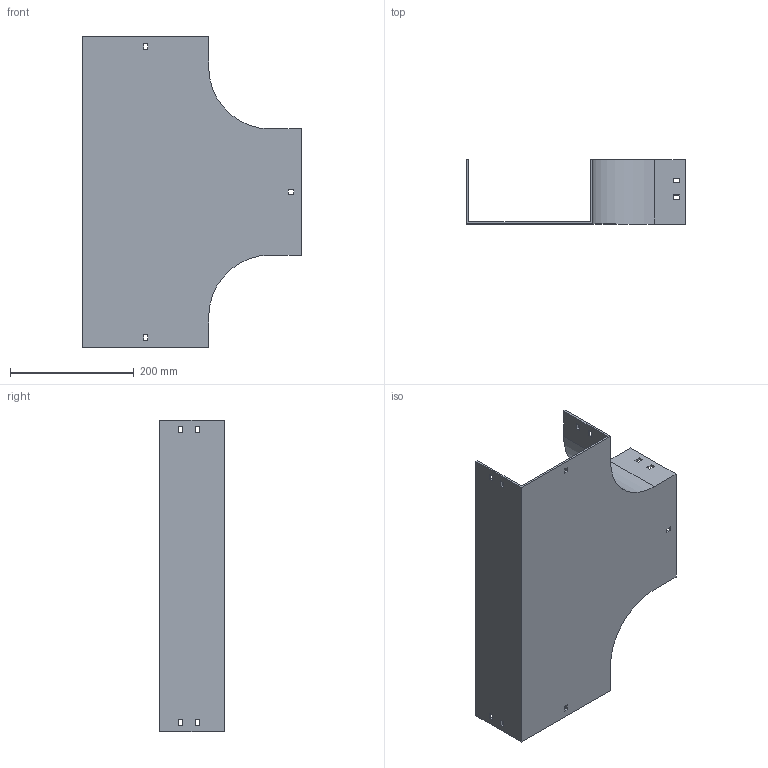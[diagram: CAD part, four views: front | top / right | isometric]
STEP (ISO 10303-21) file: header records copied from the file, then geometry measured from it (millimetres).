
FILE_DESCRIPTION (( 'STEP AP214' ), '1' );
FILE_NAME ('15B1D200.step', '2025-02-21T09:53:14', ( '' ), ( '' ), 'SwSTEP 2.0', 'SolidWorks 2023', '' );
FILE_SCHEMA (( 'AUTOMOTIVE_DESIGN' ));
Length unit declared in the file: millimetre
Products named in the file (1): 15B1D200
Bounding box: 354 x 104 x 504 mm (x, y, z)
Volume: 838495.2 mm3; surface area: 488709.7 mm2
Topology: 1 solids, 1 shells, 82 faces, 240 edges, 160 vertices
Faces by surface type: plane 78, cylinder 4
Entity records: 2755 total; most frequent: CARTESIAN_POINT 483, ORIENTED_EDGE 480, DIRECTION 414, EDGE_CURVE 240, LINE 232, VECTOR 232, VERTEX_POINT 160, EDGE_LOOP 112
